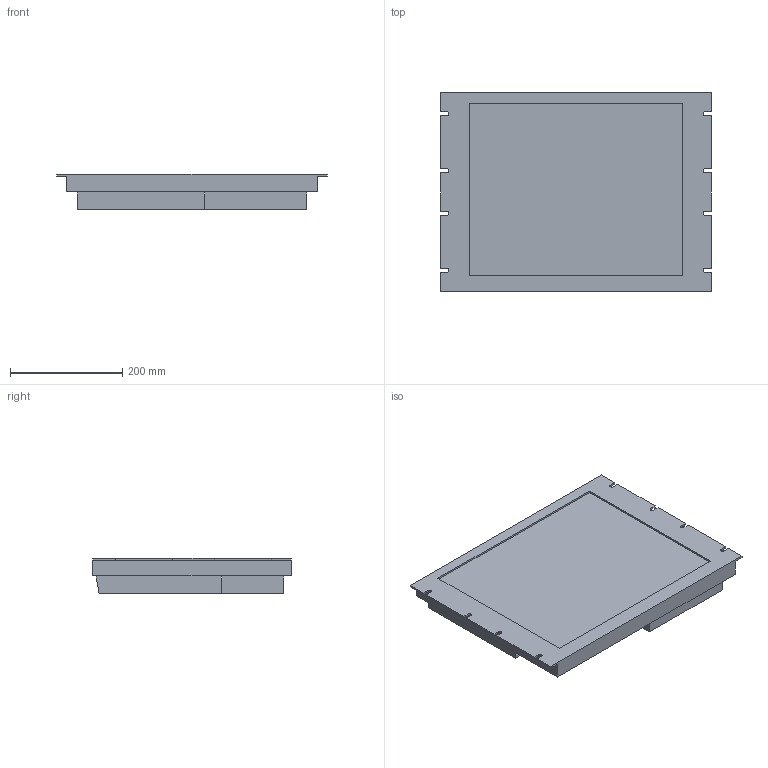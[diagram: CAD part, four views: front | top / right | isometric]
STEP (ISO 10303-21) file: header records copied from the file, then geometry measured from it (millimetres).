
FILE_DESCRIPTION (( 'STEP AP214' ), '1' );
FILE_NAME ('RL19H.STEP', '2017-03-22T16:11:45', ( '' ), ( '' ), 'SwSTEP 2.0', 'SolidWorks 2017', '' );
FILE_SCHEMA (( 'AUTOMOTIVE_DESIGN' ));
Length unit declared in the file: inch
Products named in the file (1): RL19H
Bounding box: 482.6 x 354.33 x 62.87 mm (x, y, z)
Volume: 8089336.8 mm3; surface area: 441405.6 mm2
Topology: 1 solids, 1 shells, 216 faces, 534 edges, 356 vertices
Faces by surface type: plane 192, cylinder 24
Entity records: 6346 total; most frequent: CARTESIAN_POINT 1107, ORIENTED_EDGE 1068, DIRECTION 1016, EDGE_CURVE 534, LINE 486, VECTOR 486, VERTEX_POINT 356, AXIS2_PLACEMENT_3D 265
